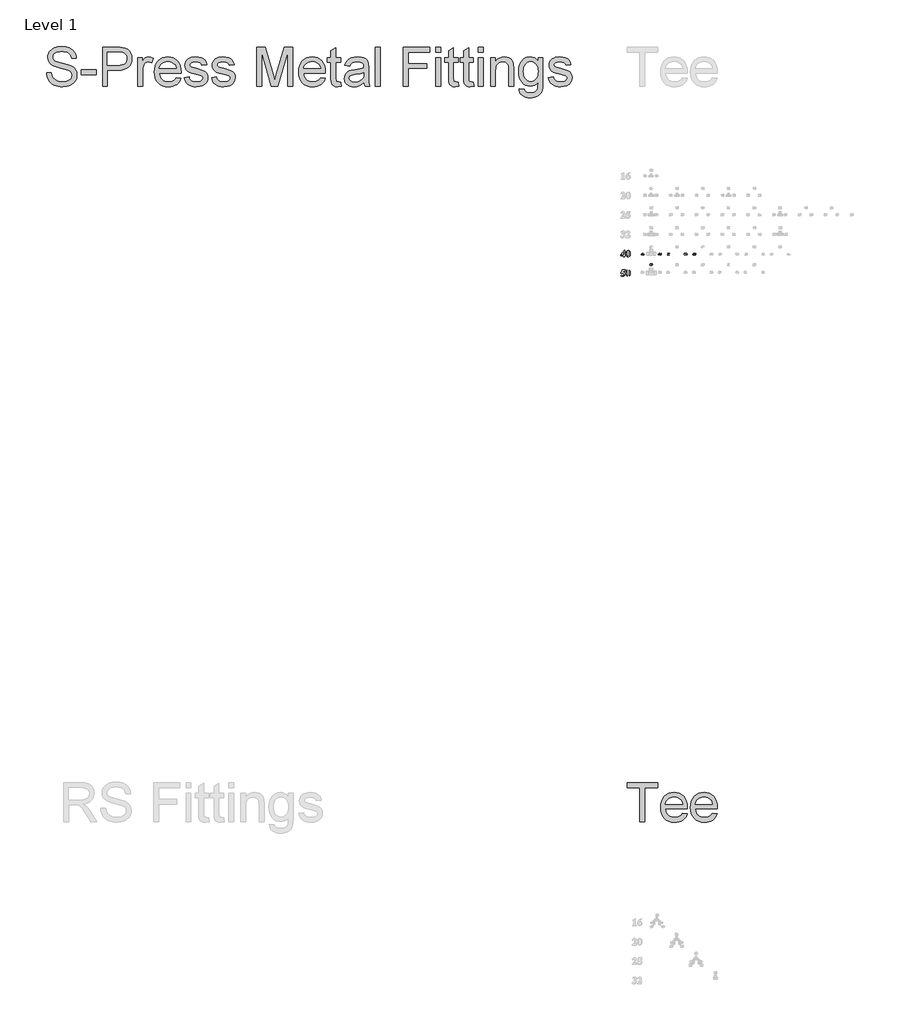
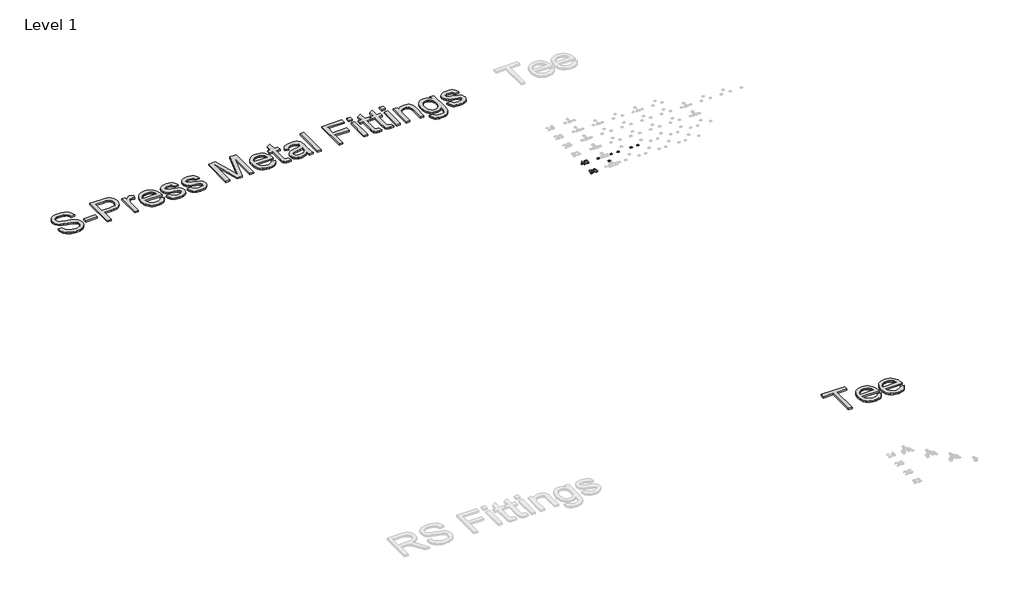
# One storey, part 26 of 57: 10 proxies.
"""IFC4 building model written with IfcOpenShell, lengths in millimetres."""

from ifc_helpers import new_model, si_unit, frame, origin, place, context, project, spatial, polyline, outline, extrude, element, save

model = new_model("IFC4")

# Units and contexts
model_context = context("Model", 3, world=origin())
ifc_project = project(units=[si_unit("LENGTHUNIT", "METRE", prefix="MILLI")], contexts=[model_context])

# Site, building, storey
site = spatial("IfcSite", under=ifc_project)
building = spatial("IfcBuilding", under=site)
storey = spatial("IfcBuildingStorey", under=building, Name="Level 1", Elevation=27.3876384)

# Proxies
placement = place(None, origin())
element("IfcBuildingElementProxy", 1, Name="100mm Arial", ObjectType="100mm Arial", at=placement, inside=storey, context=model_context, shape_type="SweptSolid", body=[
    extrude(outline(polyline([(12703.4377368, 28984.3646753), (12752.7046401, 29050.6718744), (12762.7652307, 29050.6718744), (12762.7652307, 28984.3646753), (12771.4898622, 28984.3646753), (12771.4898622, 28968.6603387), (12762.7652307, 28968.6603387), (12762.7652307, 28945.9762969), (12740.0811889, 28945.9762969), (12740.0811889, 28968.6603387), (12703.4377368, 28968.6603387), (12703.4377368, 28984.3646753)]), holes=[polyline([(12708.7270446, 28984.3646753), (12740.0811889, 28984.3646753), (12740.0811889, 29026.5428155), (12708.7270446, 28984.3646753)])]), frame((0.0, 0.0, 27.3876384), z_axis=(0.0, 0.0, 1.0), x_axis=(1.0, 0.0, 0.0)), (0.0, 0.0, 1.0), 2.0),
    extrude(outline(polyline([(12850.0115453, 28997.4516225), (12845.5674362, 28968.8784545), (12838.4514086, 28955.546127), (12828.3090246, 28947.2849916), (12815.9582182, 28944.2313706), (12802.1760269, 28947.9938679), (12791.2838698, 28958.7905994), (12785.3129502, 28972.422836), (12781.9594199, 28996.2519857), (12786.7852317, 29026.8427248), (12791.7746303, 29037.0294136), (12798.8361289, 29044.5237357), (12815.9582182, 29050.6718744), (12833.0939396, 29044.6055291), (12844.8040309, 29028.2877418), (12850.0115453, 28997.4516225)]), holes=[polyline([(12827.3275035, 28997.4516225), (12826.9730654, 29028.8057668), (12822.8561299, 29043.0105574), (12815.9036892, 29045.4370956), (12810.0690919, 29043.6103758), (12805.7613051, 29034.285926), (12804.6434617, 28987.6364121), (12806.3611236, 28958.4634257), (12810.0554597, 28951.279237), (12816.4217142, 28949.4661495), (12822.8561299, 28951.8926876), (12826.9730654, 28964.9523703), (12827.3275035, 28997.4516225)])]), frame((0.0, 0.0, 27.3876384), z_axis=(0.0, 0.0, 1.0), x_axis=(1.0, 0.0, 0.0)), (0.0, 0.0, 1.0), 2.0),
])
element("IfcBuildingElementProxy", 2, Name="100mm Arial", ObjectType="100mm Arial", at=placement, inside=storey, context=model_context, shape_type="SweptSolid", body=[
    extrude(outline(polyline([(12722.631926, 28748.9244196), (12771.4898622, 28748.9244196), (12764.510157, 28727.9853041), (12720.2326524, 28727.9853041), (12717.042709, 28719.2606727), (12741.3353547, 28715.4845431), (12759.3026426, 28706.1191965), (12768.4430573, 28694.8657852), (12771.4898622, 28681.1722034), (12765.7915873, 28662.4687748), (12750.0736184, 28648.7820091), (12728.0848207, 28644.2288421), (12708.2635486, 28649.0273894), (12703.4377368, 28656.7432354), (12705.9597006, 28662.6187294), (12711.8351946, 28665.1679576), (12717.9697011, 28663.8592629), (12728.6028457, 28656.9613511), (12736.7821877, 28652.1900683), (12742.2078178, 28651.2085473), (12753.0590782, 28655.7753466), (12757.5304518, 28666.7492971), (12754.1360249, 28678.786562), (12743.9527441, 28688.3427599), (12728.5960295, 28694.5795082), (12709.6813012, 28696.6584243), (12703.4377368, 28696.5766309), (12722.631926, 28748.9244196)])), frame((0.0, 0.0, 27.3876384), z_axis=(0.0, 0.0, 1.0), x_axis=(1.0, 0.0, 0.0)), (0.0, 0.0, 1.0), 2.0),
    extrude(outline(polyline([(12850.0115453, 28697.449094), (12845.5674362, 28668.875926), (12838.4514086, 28655.5435985), (12828.3090246, 28647.2824631), (12815.9582182, 28644.2288421), (12802.1760269, 28647.9913394), (12791.2838698, 28658.7880709), (12785.3129502, 28672.4203075), (12781.9594199, 28696.2494572), (12786.7852317, 28726.8401962), (12791.7746303, 28737.0268851), (12798.8361289, 28744.5212072), (12815.9582182, 28750.6693459), (12833.0939396, 28744.6030006), (12844.8040309, 28728.2852133), (12850.0115453, 28697.449094)]), holes=[polyline([(12827.3275035, 28697.449094), (12826.9730654, 28728.8032383), (12822.8561299, 28743.0080289), (12815.9036892, 28745.434567), (12810.0690919, 28743.6078473), (12805.7613051, 28734.2833975), (12804.6434617, 28687.6338836), (12806.3611236, 28658.4608972), (12810.0554597, 28651.2767085), (12816.4217142, 28649.463621), (12822.8561299, 28651.8901591), (12826.9730654, 28664.9498418), (12827.3275035, 28697.449094)])]), frame((0.0, 0.0, 27.3876384), z_axis=(0.0, 0.0, 1.0), x_axis=(1.0, 0.0, 0.0)), (0.0, 0.0, 1.0), 2.0),
])
element("IfcBuildingElementProxy", 3, Name="30mm Arial", ObjectType="30mm Arial", at=placement, inside=storey, context=model_context, shape_type="SweptSolid", body=[
    extrude(outline(polyline([(13295.5261179, 28976.9762969), (13295.5261179, 28983.2921884), (13283.8660105, 28983.2921884), (13283.8660105, 28988.1277929), (13296.3004219, 29007.0982411), (13301.3561716, 29007.0982411), (13301.3561716, 28988.1505665), (13305.2428741, 28988.1505665), (13305.2428741, 28983.2921884), (13301.3561716, 28983.2921884), (13301.3561716, 28976.9762969), (13295.5261179, 28976.9762969)]), holes=[polyline([(13295.5261179, 28988.1505665), (13295.5261179, 28998.0950592), (13289.0128548, 28988.1505665), (13295.5261179, 28988.1505665)])]), frame((0.0, 0.0, 27.3876384), z_axis=(0.0, 0.0, 1.0), x_axis=(1.0, 0.0, 0.0)), (0.0, 0.0, 1.0), 2.0),
    extrude(outline(polyline([(13317.8746571, 29007.5840789), (13324.6687952, 29004.4261331), (13327.5914133, 28992.0296778), (13324.6536128, 28979.6028576), (13317.8746571, 28976.4904591), (13310.8338045, 28979.9065062), (13308.1579009, 28992.0904075), (13311.0957014, 29004.4716804), (13317.8746571, 29007.5840789)]), holes=[polyline([(13317.8746571, 29002.239863), (13315.9313059, 29001.5984053), (13314.6104343, 28999.2944713), (13313.9879547, 28992.0296778), (13314.5421134, 28985.0115988), (13315.9426927, 28982.4685415), (13317.8746571, 28981.834675), (13319.8180084, 28982.4761327), (13321.1388799, 28984.7800667), (13321.7613596, 28992.0296778), (13321.2072009, 28999.0439612), (13319.8066215, 29001.5984053), (13317.8746571, 29002.239863)])]), frame((0.0, 0.0, 27.3876384), z_axis=(0.0, 0.0, 1.0), x_axis=(1.0, 0.0, 0.0)), (0.0, 0.0, 1.0), 2.0),
])
element("IfcBuildingElementProxy", 4, Name="30mm Arial", ObjectType="30mm Arial", at=placement, inside=storey, context=model_context, shape_type="SweptSolid", body=[
    extrude(outline(polyline([(13031.8131244, 28974.6512629), (13031.8131244, 28980.9671544), (13020.153017, 28980.9671544), (13020.153017, 28985.8027588), (13032.5874285, 29004.7732071), (13037.6431782, 29004.7732071), (13037.6431782, 28985.8255325), (13041.5298806, 28985.8255325), (13041.5298806, 28980.9671544), (13037.6431782, 28980.9671544), (13037.6431782, 28974.6512629), (13031.8131244, 28974.6512629)]), holes=[polyline([(13031.8131244, 28985.8255325), (13031.8131244, 28995.7700252), (13025.2998613, 28985.8255325), (13031.8131244, 28985.8255325)])]), frame((0.0, 0.0, 27.3876384), z_axis=(0.0, 0.0, 1.0), x_axis=(1.0, 0.0, 0.0)), (0.0, 0.0, 1.0), 2.0),
    extrude(outline(polyline([(13054.1616637, 29005.2590449), (13060.9558018, 29002.1010991), (13063.8784199, 28989.7046438), (13060.9406194, 28977.2778235), (13054.1616637, 28974.1654251), (13047.1208111, 28977.5814722), (13044.4449075, 28989.7653735), (13047.382708, 29002.1466464), (13054.1616637, 29005.2590449)]), holes=[polyline([(13054.1616637, 28999.914829), (13052.2183124, 28999.2733712), (13050.8974409, 28996.9694372), (13050.2749612, 28989.7046438), (13050.82912, 28982.6865648), (13052.2296993, 28980.1435075), (13054.1616637, 28979.509641), (13056.1050149, 28980.1510987), (13057.4258865, 28982.4550327), (13058.0483662, 28989.7046438), (13057.4942074, 28996.7189271), (13056.0936281, 28999.2733712), (13054.1616637, 28999.914829)])]), frame((0.0, 0.0, 27.3876384), z_axis=(0.0, 0.0, 1.0), x_axis=(1.0, 0.0, 0.0)), (0.0, 0.0, 1.0), 2.0),
])
element("IfcBuildingElementProxy", 5, Name="30mm Arial", ObjectType="30mm Arial", at=placement, inside=storey, context=model_context, shape_type="SweptSolid", body=[
    extrude(outline(polyline([(13683.5876861, 28985.5315971), (13689.4177398, 28986.2072153), (13690.7310201, 28982.9581749), (13693.3196247, 28981.834675), (13696.075236, 28983.1213861), (13697.1911448, 28986.5867761), (13696.1701262, 28989.8585901), (13693.6764118, 28991.0655934), (13691.361091, 28990.6328941), (13691.8697025, 28995.4381337), (13694.7429777, 28996.3946269), (13695.7336313, 28999.0970997), (13694.9934878, 29001.3858512), (13693.0235673, 29002.239863), (13690.9473698, 29001.2492093), (13689.9035776, 28998.3531605), (13684.0735239, 28999.2261503), (13685.679066, 29003.8605876), (13688.6775963, 29006.5896296), (13692.9856112, 29007.5840789), (13699.5292392, 29004.8284676), (13701.563685, 28999.7271706), (13697.198736, 28993.2974108), (13701.4346344, 28990.7961052), (13703.0211985, 28986.1009383), (13700.208653, 28979.3030045), (13693.2057565, 28976.4904591), (13686.6203768, 28978.9917647), (13683.5876861, 28985.5315971)])), frame((0.0, 0.0, 27.3876384), z_axis=(0.0, 0.0, 1.0), x_axis=(1.0, 0.0, 0.0)), (0.0, 0.0, 1.0), 2.0),
    extrude(outline(polyline([(13726.3414133, 28982.8063506), (13726.3414133, 28976.9762969), (13706.9079009, 28976.9762969), (13708.7677488, 28982.696278), (13714.8786775, 28989.8661813), (13719.3878597, 28994.7549242), (13720.5113596, 28998.2620659), (13719.5662532, 29001.2112533), (13716.9586706, 29002.239863), (13714.3472924, 29001.2264357), (13713.2237925, 28997.8673227), (13707.3937388, 28998.3987078), (13710.5213196, 29005.4471517), (13717.0877213, 29007.5840789), (13723.8742682, 29005.1890503), (13726.3414133, 28999.2337416), (13725.6657951, 28995.3774039), (13723.5250723, 28991.54384), (13719.9002667, 28987.7178672), (13716.5715186, 28984.4005059), (13715.4783835, 28982.8063506), (13726.3414133, 28982.8063506)])), frame((0.0, 0.0, 27.3876384), z_axis=(0.0, 0.0, 1.0), x_axis=(1.0, 0.0, 0.0)), (0.0, 0.0, 1.0), 2.0),
])
element("IfcBuildingElementProxy", 6, Name="30mm Arial", ObjectType="30mm Arial", at=placement, inside=storey, context=model_context, shape_type="SweptSolid", body=[
    extrude(outline(polyline([(13430.5631244, 28974.6512629), (13430.5631244, 28980.9671544), (13418.903017, 28980.9671544), (13418.903017, 28985.8027588), (13431.3374285, 29004.7732071), (13436.3931782, 29004.7732071), (13436.3931782, 28985.8255325), (13440.2798806, 28985.8255325), (13440.2798806, 28980.9671544), (13436.3931782, 28980.9671544), (13436.3931782, 28974.6512629), (13430.5631244, 28974.6512629)]), holes=[polyline([(13430.5631244, 28985.8255325), (13430.5631244, 28995.7700252), (13424.0498613, 28985.8255325), (13430.5631244, 28985.8255325)])]), frame((0.0, 0.0, 27.3876384), z_axis=(0.0, 0.0, 1.0), x_axis=(1.0, 0.0, 0.0)), (0.0, 0.0, 1.0), 2.0),
    extrude(outline(polyline([(13452.9116637, 29005.2590449), (13459.7058018, 29002.1010991), (13462.6284199, 28989.7046438), (13459.6906194, 28977.2778235), (13452.9116637, 28974.1654251), (13445.8708111, 28977.5814722), (13443.1949075, 28989.7653735), (13446.132708, 29002.1466464), (13452.9116637, 29005.2590449)]), holes=[polyline([(13452.9116637, 28999.914829), (13450.9683124, 28999.2733712), (13449.6474409, 28996.9694372), (13449.0249612, 28989.7046438), (13449.57912, 28982.6865648), (13450.9796993, 28980.1435075), (13452.9116637, 28979.509641), (13454.8550149, 28980.1510987), (13456.1758865, 28982.4550327), (13456.7983662, 28989.7046438), (13456.2442074, 28996.7189271), (13454.8436281, 28999.2733712), (13452.9116637, 28999.914829)])]), frame((0.0, 0.0, 27.3876384), z_axis=(0.0, 0.0, 1.0), x_axis=(1.0, 0.0, 0.0)), (0.0, 0.0, 1.0), 2.0),
])
element("IfcBuildingElementProxy", 7, Name="30mm Arial", ObjectType="30mm Arial", at=placement, inside=storey, context=model_context, shape_type="SweptSolid", body=[
    extrude(outline(polyline([(13829.3131244, 28974.6512629), (13829.3131244, 28980.9671544), (13817.653017, 28980.9671544), (13817.653017, 28985.8027588), (13830.0874285, 29004.7732071), (13835.1431782, 29004.7732071), (13835.1431782, 28985.8255325), (13839.0298806, 28985.8255325), (13839.0298806, 28980.9671544), (13835.1431782, 28980.9671544), (13835.1431782, 28974.6512629), (13829.3131244, 28974.6512629)]), holes=[polyline([(13829.3131244, 28985.8255325), (13829.3131244, 28995.7700252), (13822.7998613, 28985.8255325), (13829.3131244, 28985.8255325)])]), frame((0.0, 0.0, 27.3876384), z_axis=(0.0, 0.0, 1.0), x_axis=(1.0, 0.0, 0.0)), (0.0, 0.0, 1.0), 2.0),
    extrude(outline(polyline([(13851.6616637, 29005.2590449), (13858.4558018, 29002.1010991), (13861.3784199, 28989.7046438), (13858.4406194, 28977.2778235), (13851.6616637, 28974.1654251), (13844.6208111, 28977.5814722), (13841.9449075, 28989.7653735), (13844.882708, 29002.1466464), (13851.6616637, 29005.2590449)]), holes=[polyline([(13851.6616637, 28999.914829), (13849.7183124, 28999.2733712), (13848.3974409, 28996.9694372), (13847.7749612, 28989.7046438), (13848.32912, 28982.6865648), (13849.7296993, 28980.1435075), (13851.6616637, 28979.509641), (13853.6050149, 28980.1510987), (13854.9258865, 28982.4550327), (13855.5483662, 28989.7046438), (13854.9942074, 28996.7189271), (13853.5936281, 28999.2733712), (13851.6616637, 28999.914829)])]), frame((0.0, 0.0, 27.3876384), z_axis=(0.0, 0.0, 1.0), x_axis=(1.0, 0.0, 0.0)), (0.0, 0.0, 1.0), 2.0),
])
element("IfcBuildingElementProxy", 8, Name="30mm Arial", ObjectType="30mm Arial", at=placement, inside=storey, context=model_context, shape_type="SweptSolid", body=[
    extrude(outline(polyline([(13150.9328401, 28820.4234883), (13156.277056, 28821.0383767), (13157.7649343, 28817.8424749), (13160.6192314, 28816.6658365), (13163.7430167, 28817.9145915), (13165.0221366, 28821.6760389), (13163.8341113, 28825.2059542), (13160.7406909, 28826.3825927), (13156.4744276, 28823.9534036), (13151.4186779, 28824.704934), (13154.8195426, 28841.9294026), (13169.3946769, 28841.9294026), (13169.3946769, 28836.0993488), (13159.5336876, 28836.0993488), (13158.3570491, 28830.5349877), (13162.1147009, 28831.7268086), (13168.309133, 28828.9674016), (13170.8521903, 28821.8050895), (13168.7342411, 28815.2538703), (13160.710326, 28811.3216206), (13154.0262605, 28813.7887657), (13150.9328401, 28820.4234883)])), frame((0.0, 0.0, 27.3876384), z_axis=(0.0, 0.0, 1.0), x_axis=(1.0, 0.0, 0.0)), (0.0, 0.0, 1.0), 2.0),
    extrude(outline(polyline([(13183.9698112, 28842.4152404), (13190.7639493, 28839.2572946), (13193.6865673, 28826.8608392), (13190.7487668, 28814.434019), (13183.9698112, 28811.3216206), (13176.9289585, 28814.7376677), (13174.253055, 28826.921569), (13177.1908555, 28839.3028419), (13183.9698112, 28842.4152404)]), holes=[polyline([(13183.9698112, 28837.0710245), (13182.0264599, 28836.4295667), (13180.7055884, 28834.1256327), (13180.0831087, 28826.8608392), (13180.6372674, 28819.8427603), (13182.0378467, 28817.299703), (13183.9698112, 28816.6658365), (13185.9131624, 28817.3072942), (13187.2340339, 28819.6112282), (13187.8565136, 28826.8608392), (13187.3023549, 28833.8751226), (13185.9017756, 28836.4295667), (13183.9698112, 28837.0710245)])]), frame((0.0, 0.0, 27.3876384), z_axis=(0.0, 0.0, 1.0), x_axis=(1.0, 0.0, 0.0)), (0.0, 0.0, 1.0), 2.0),
])
element("IfcBuildingElementProxy", 9, Name="600mm Arial", ObjectType="600mm Arial", at=placement, inside=storey, context=model_context, shape_type="SweptSolid", body=[
    extrude(outline(polyline([(12997.427256, 20213.7679008), (12997.427256, 20741.1635291), (12799.6538954, 20741.1635291), (12799.6538954, 20816.5057617), (13270.5428492, 20816.5057617), (13270.5428492, 20741.1635291), (13072.7694886, 20741.1635291), (13072.7694886, 20213.7679008), (12997.427256, 20213.7679008)])), frame((0.0, 0.0, 27.3876384), z_axis=(0.0, 0.0, 1.0), x_axis=(1.0, 0.0, 0.0)), (0.0, 0.0, 1.0), 30.0),
    extrude(outline(polyline([(13655.7888746, 20345.6168079), (13729.6595792, 20336.1990288), (13718.3334123, 20306.6121193), (13703.0433169, 20280.5384829), (13683.7892929, 20257.9781196), (13660.5713405, 20238.9310293), (13633.6285829, 20223.8018822), (13603.2001434, 20212.9953486), (13569.2860219, 20206.5114285), (13531.8862186, 20204.3501217), (13485.1376141, 20208.0795255), (13443.4841752, 20219.2677366), (13406.9259019, 20237.9147553), (13375.4627943, 20264.0205813), (13350.16171, 20296.8586479), (13332.089507, 20335.7023881), (13321.2461852, 20380.5518018), (13317.6317446, 20431.4068892), (13321.2829734, 20483.9864233), (13332.2366598, 20530.3303577), (13350.4928038, 20570.4386922), (13376.0514054, 20604.3114269), (13407.4317396, 20631.2219948), (13443.1530814, 20650.4438291), (13483.2154306, 20661.9769296), (13527.6187875, 20665.8212965), (13570.592003, 20661.9861267), (13609.4541373, 20650.4806173), (13644.2051903, 20631.3047683), (13674.8451619, 20604.4585797), (13699.8565391, 20570.6594214), (13717.7218085, 20530.6246633), (13728.4409701, 20484.3543053), (13732.014024, 20431.8483475), (13731.5725656, 20411.5412614), (13392.9739772, 20411.5412614), (13397.3379774, 20381.4761054), (13406.015394, 20355.1449516), (13419.0062269, 20332.5478), (13436.3104763, 20313.6846507), (13456.9716488, 20298.813021), (13480.0332514, 20288.1904284), (13505.495284, 20281.8168729), (13533.3577466, 20279.6923543), (13573.4568841, 20283.6286917), (13607.2284512, 20295.4377037), (13634.6724481, 20315.8551545), (13655.7888746, 20345.6168079)]), holes=[polyline([(13392.9739772, 20486.883494), (13656.6717914, 20486.883494), (13646.4814601, 20526.6883259), (13637.7166716, 20542.3417048), (13626.5054678, 20555.1623923), (13605.9592583, 20570.6134361), (13582.5803575, 20581.649896), (13556.3687654, 20588.2717719), (13527.3244819, 20590.4790639), (13500.8323797, 20588.7178288), (13476.5383724, 20583.4341237), (13454.4424601, 20574.6279484), (13434.5446427, 20562.299303), (13417.8473986, 20547.0184047), (13405.3532064, 20529.3554704), (13397.0620659, 20509.3105002), (13392.9739772, 20486.883494)])]), frame((0.0, 0.0, 27.3876384), z_axis=(0.0, 0.0, 1.0), x_axis=(1.0, 0.0, 0.0)), (0.0, 0.0, 1.0), 30.0),
    extrude(outline(polyline([(14117.2600493, 20345.6168079), (14191.130754, 20336.1990288), (14179.804587, 20306.6121193), (14164.5144916, 20280.5384829), (14145.2604677, 20257.9781196), (14122.0425153, 20238.9310293), (14095.0997576, 20223.8018822), (14064.6713181, 20212.9953486), (14030.7571967, 20206.5114285), (13993.3573934, 20204.3501217), (13946.6087888, 20208.0795255), (13904.9553499, 20219.2677366), (13868.3970766, 20237.9147553), (13836.933969, 20264.0205813), (13811.6328848, 20296.8586479), (13793.5606818, 20335.7023881), (13782.71736, 20380.5518018), (13779.1029194, 20431.4068892), (13782.7541482, 20483.9864233), (13793.7078346, 20530.3303577), (13811.9639786, 20570.4386922), (13837.5225802, 20604.3114269), (13868.9029144, 20631.2219948), (13904.6242561, 20650.4438291), (13944.6866054, 20661.9769296), (13989.0899622, 20665.8212965), (14032.0631778, 20661.9861267), (14070.925312, 20650.4806173), (14105.676365, 20631.3047683), (14136.3163367, 20604.4585797), (14161.3277138, 20570.6594214), (14179.1929832, 20530.6246633), (14189.9121449, 20484.3543053), (14193.4851987, 20431.8483475), (14193.0437403, 20411.5412614), (13854.445152, 20411.5412614), (13858.8091521, 20381.4761054), (13867.4865687, 20355.1449516), (13880.4774017, 20332.5478), (13897.781651, 20313.6846507), (13918.4428236, 20298.813021), (13941.5044261, 20288.1904284), (13966.9664587, 20281.8168729), (13994.8289213, 20279.6923543), (14034.9280588, 20283.6286917), (14068.699626, 20295.4377037), (14096.1436228, 20315.8551545), (14117.2600493, 20345.6168079)]), holes=[polyline([(13854.445152, 20486.883494), (14118.1429661, 20486.883494), (14107.9526349, 20526.6883259), (14099.1878463, 20542.3417048), (14087.9766425, 20555.1623923), (14067.4304331, 20570.6134361), (14044.0515323, 20581.649896), (14017.8399401, 20588.2717719), (13988.7956566, 20590.4790639), (13962.3035544, 20588.7178288), (13938.0095472, 20583.4341237), (13915.9136348, 20574.6279484), (13896.0158174, 20562.299303), (13879.3185734, 20547.0184047), (13866.8243811, 20529.3554704), (13858.5332406, 20509.3105002), (13854.445152, 20486.883494)])]), frame((0.0, 0.0, 27.3876384), z_axis=(0.0, 0.0, 1.0), x_axis=(1.0, 0.0, 0.0)), (0.0, 0.0, 1.0), 30.0),
])
element("IfcBuildingElementProxy", 10, Name="600mm Arial", ObjectType="600mm Arial", at=placement, inside=storey, context=model_context, shape_type="SweptSolid", body=[
    extrude(outline(polyline([(3822.5326656, 31795.0596989), (3897.8748982, 31795.0596989), (3906.5201251, 31753.2499101), (3922.1551099, 31719.6438899), (3946.5456861, 31692.9724452), (3981.4576875, 31671.9663833), (4024.1319989, 31658.3363554), (4071.8095055, 31653.7930127), (4113.7848412, 31657.2327094), (4150.5362525, 31667.5517993), (4180.3163, 31683.8857599), (4201.3775442, 31705.3700685), (4213.9039261, 31730.0365562), (4218.0793868, 31755.9170546), (4214.9523898, 31781.1353654), (4205.571399, 31802.9323736), (4186.5151116, 31821.5288084), (4154.3622252, 31837.1453991), (4044.6598143, 31865.9137711), (3972.6469137, 31884.9516644), (3926.5696938, 31903.0698527), (3889.0641244, 31928.4169221), (3862.4846503, 31959.1350687), (3846.6473304, 31994.5621049), (3841.3682237, 32034.0358429), (3843.0007001, 32056.4720461), (3847.8981291, 32078.1632883), (3856.0605109, 32099.1095694), (3867.4878454, 32119.3108894), (3882.0513739, 32137.9441125), (3899.6223377, 32154.1861026), (3920.2007368, 32168.0368597), (3943.7865712, 32179.4963838), (3996.7983667, 32194.8922453), (4055.4755449, 32200.0241992), (4119.0455537, 32194.653122), (4174.6693114, 32178.5398906), (4199.0047053, 32166.5377406), (4220.3602552, 32152.0155988), (4238.7359608, 32134.9734654), (4254.1318223, 32115.4113403), (4266.428278, 32093.8994406), (4275.5057662, 32071.0079835), (4281.364287, 32046.7369688), (4284.0038403, 32021.0863967), (4208.6616077, 32021.0863967), (4203.6216244, 32045.1274851), (4194.8292447, 32066.0415765), (4182.2844687, 32083.828671), (4165.9872963, 32098.4887685), (4145.6342249, 32109.9482926), (4120.9217519, 32118.133667), (4091.8498772, 32123.0448917), (4058.4186009, 32124.6819666), (4023.9204668, 32123.0632858), (3994.4439219, 32118.2072434), (3969.9889663, 32110.1138395), (3950.5555999, 32098.7830741), (3935.7483496, 32085.1622432), (3925.1717422, 32070.1986431), (3918.8257778, 32053.8922736), (3916.7104563, 32036.2431349), (3918.2095755, 32021.0588056), (3922.7069329, 32007.2908219), (3930.2025285, 31994.9391839), (3940.6963624, 31984.0038916), (3957.214264, 31973.6480134), (3983.2235211, 31963.1817707), (4063.7161016, 31941.9181914), (4146.7838561, 31921.7214698), (4197.0365367, 31904.0999222), (4239.9867596, 31876.76629), (4256.5920332, 31860.6990439), (4269.9507481, 31843.031511), (4280.2192543, 31823.855662), (4287.5539016, 31803.2634674), (4293.4216194, 31757.830041), (4291.7339607, 31734.2626006), (4286.6709848, 31711.3849391), (4278.2326915, 31689.1970562), (4266.419081, 31667.6989521), (4251.4370867, 31647.7229598), (4233.4936424, 31630.1014122), (4212.588748, 31614.8343094), (4188.7224036, 31601.9216514), (4162.5889863, 31591.6531452), (4134.8828736, 31584.3184979), (4074.7525615, 31578.4507801), (4036.2123239, 31580.0326727), (4000.9370391, 31584.7783504), (3968.926707, 31592.6878133), (3940.1813276, 31603.7610614), (3914.526157, 31618.0164887), (3891.7864512, 31635.4724894), (3871.9622102, 31656.1290634), (3855.0534339, 31679.9862108), (3841.4326031, 31706.2713793), (3831.4721981, 31734.2120169), (3825.1722189, 31763.8081234), (3822.5326656, 31795.0596989)])), frame((0.0, 0.0, 27.3876384), z_axis=(0.0, 0.0, 1.0), x_axis=(1.0, 0.0, 0.0)), (0.0, 0.0, 1.0), 30.0),
    extrude(outline(polyline([(4359.3460729, 31766.8063616), (4359.3460729, 31842.1485943), (4594.7905499, 31842.1485943), (4594.7905499, 31766.8063616), (4359.3460729, 31766.8063616)])), frame((0.0, 0.0, 27.3876384), z_axis=(0.0, 0.0, 1.0), x_axis=(1.0, 0.0, 0.0)), (0.0, 0.0, 1.0), 30.0),
    extrude(outline(polyline([(4688.9683406, 31587.8685592), (4688.9683406, 32190.6064201), (4912.3462881, 32190.6064201), (4964.3648022, 32189.1716803), (5002.4038005, 32184.867461), (5042.5581203, 32174.1437008), (5075.6123175, 32156.6877001), (5102.2285799, 32131.7085127), (5123.0690949, 32098.4151921), (5136.5335759, 32059.1437891), (5141.0217363, 32016.2303544), (5137.9913084, 31979.2306227), (5128.9000245, 31945.1923411), (5113.7478849, 31914.1155096), (5092.5348893, 31886.0001281), (5063.4124309, 31862.6948037), (5024.5319025, 31846.0481434), (4975.8933042, 31836.0601472), (4917.496636, 31832.7308152), (4764.3105732, 31832.7308152), (4764.3105732, 31587.8685592), (4688.9683406, 31587.8685592)]), holes=[polyline([(4764.3105732, 31908.0730478), (4921.91122, 31908.0730478), (4958.1475965, 31909.8020932), (4988.7185903, 31914.9892293), (5013.6242014, 31923.6344562), (5032.8644297, 31935.7377738), (5047.2210246, 31950.9772855), (5057.4757352, 31969.0310944), (5063.6285616, 31989.8992006), (5065.6795037, 32013.581604), (5060.8418554, 32047.4267476), (5046.3289107, 32075.9743904), (5023.9432913, 32097.4586989), (4995.487619, 32110.1138395), (4966.4249414, 32113.9766005), (4920.1453864, 32115.2641875), (4764.3105732, 32115.2641875), (4764.3105732, 31908.0730478)])]), frame((0.0, 0.0, 27.3876384), z_axis=(0.0, 0.0, 1.0), x_axis=(1.0, 0.0, 0.0)), (0.0, 0.0, 1.0), 30.0),
    extrude(outline(polyline([(5235.1995271, 31587.8685592), (5235.1995271, 32030.5041758), (5301.1239806, 32030.5041758), (5301.1239806, 31965.0211806), (5325.4777687, 32002.9866025), (5347.9185704, 32025.3538279), (5370.4329485, 32036.2799231), (5395.0074658, 32039.9219549), (5432.5314293, 32034.1094193), (5470.644004, 32016.6718128), (5445.4808755, 31949.1286785), (5418.9933718, 31960.7169613), (5392.5058682, 31964.5797223), (5370.0098842, 31960.8641141), (5349.9051331, 31949.7172896), (5333.6631431, 31931.9853775), (5322.7554419, 31908.5145062), (5313.5951802, 31866.4288059), (5310.5417597, 31820.5171329), (5310.5417597, 31587.8685592), (5235.1995271, 31587.8685592)])), frame((0.0, 0.0, 27.3876384), z_axis=(0.0, 0.0, 1.0), x_axis=(1.0, 0.0, 0.0)), (0.0, 0.0, 1.0), 30.0),
    extrude(outline(polyline([(5827.6366921, 31719.7174663), (5901.5073967, 31710.2996872), (5890.1812298, 31680.7127777), (5874.8911344, 31654.6391413), (5855.6371104, 31632.078778), (5832.419158, 31613.0316877), (5805.4764004, 31597.9025406), (5775.0479609, 31587.096007), (5741.1338394, 31580.6120868), (5703.7340361, 31578.4507801), (5656.9854316, 31582.1801838), (5615.3319927, 31593.368395), (5578.7737194, 31612.0154137), (5547.3106118, 31638.1212397), (5522.0095275, 31670.9593063), (5503.9373245, 31709.8030465), (5493.0940027, 31754.6524602), (5489.4795621, 31805.5075475), (5493.1307909, 31858.0870817), (5504.0844773, 31904.431016), (5522.3406213, 31944.5393506), (5547.899223, 31978.4120853), (5579.2795571, 32005.3226532), (5615.0008989, 32024.5444875), (5655.0632481, 32036.077588), (5699.466605, 32039.9219549), (5742.4398205, 32036.0867851), (5781.3019548, 32024.5812757), (5816.0530078, 32005.4054267), (5846.6929794, 31978.5592381), (5871.7043566, 31944.7600798), (5889.569626, 31904.7253216), (5900.2887876, 31858.4549637), (5903.8618415, 31805.9490059), (5903.4203831, 31785.6419198), (5564.8217947, 31785.6419198), (5569.1857949, 31755.5767637), (5577.8632115, 31729.2456099), (5590.8540444, 31706.6484584), (5608.1582938, 31687.7853091), (5628.8194663, 31672.9136794), (5651.8810689, 31662.2910868), (5677.3431015, 31655.9175313), (5705.2055641, 31653.7930127), (5745.3047016, 31657.7293501), (5779.0762687, 31669.5383621), (5806.5202656, 31689.9558129), (5827.6366921, 31719.7174663)]), holes=[polyline([(5564.8217947, 31860.9841524), (5828.5196089, 31860.9841524), (5818.3292776, 31900.7889843), (5809.5644891, 31916.4423632), (5798.3532853, 31929.2630507), (5777.8070758, 31944.7140945), (5754.428175, 31955.7505544), (5728.2165829, 31962.3724303), (5699.1722994, 31964.5797223), (5672.6801972, 31962.8184872), (5648.3861899, 31957.534782), (5626.2902776, 31948.7286068), (5606.3924602, 31936.3999614), (5589.6952161, 31921.119063), (5577.2010239, 31903.4561288), (5568.9098834, 31883.4111585), (5564.8217947, 31860.9841524)])]), frame((0.0, 0.0, 27.3876384), z_axis=(0.0, 0.0, 1.0), x_axis=(1.0, 0.0, 0.0)), (0.0, 0.0, 1.0), 30.0),
    extrude(outline(polyline([(5950.9507369, 31719.7174663), (6026.2929695, 31729.1352453), (6030.8455092, 31711.9551562), (6038.1755579, 31696.9087826), (6048.2831157, 31683.9961245), (6061.1681826, 31673.2171821), (6076.8675468, 31664.719108), (6095.4179964, 31658.6490551), (6141.072152, 31653.7930127), (6186.1744846, 31658.2443849), (6203.7040617, 31663.8086), (6217.8859126, 31671.5985013), (6236.6478943, 31690.9490942), (6241.3383898, 31701.783219), (6242.9018882, 31713.3898959), (6241.3291927, 31723.5618331), (6236.6111061, 31732.5933361), (6217.7387598, 31747.2350395), (6189.5222107, 31756.7999714), (6140.1892352, 31768.719348), (6071.4320903, 31788.6033699), (6026.7344279, 31805.5811239), (5998.0212382, 31824.1039824), (5977.2175113, 31848.6233174), (5964.5807648, 31877.5756304), (5960.3685159, 31909.397423), (5963.7530303, 31938.5888593), (5973.9065734, 31965.5362154), (5989.9094402, 31989.1726336), (6010.8419257, 32008.4312561), (6031.6456525, 32020.5529678), (6058.7401615, 32030.724905), (6090.0653133, 32037.6226924), (6123.560969, 32039.9219549), (6172.599639, 32036.2247408), (6215.2371622, 32025.1330987), (6249.5237642, 32007.7322803), (6273.5096702, 31985.1075376), (6289.4021724, 31955.5850075), (6299.4085627, 31917.4908269), (6224.0663301, 31908.0730478), (6214.5565805, 31931.7830424), (6195.7394165, 31949.6437132), (6167.4308969, 31960.84572), (6129.4470809, 31964.5797223), (6086.1841583, 31961.0112669), (6057.3422099, 31950.3059008), (6041.1186139, 31934.854857), (6035.7107486, 31917.0493685), (6037.9548287, 31905.4610856), (6044.6870692, 31895.1236016), (6056.2017757, 31885.8897635), (6072.7932537, 31878.4953354), (6137.6876376, 31862.4556804), (6248.2729654, 31826.9918561), (6277.4827958, 31810.0324961), (6299.6292919, 31786.8191422), (6313.5904136, 31757.278218), (6318.2441209, 31721.336147), (6312.7810732, 31684.1800655), (6296.3919303, 31649.231276), (6269.7020916, 31619.2304993), (6233.3369564, 31596.9184563), (6189.4118461, 31583.0676992), (6140.0420824, 31578.4507801), (6099.4922895, 31580.6764662), (6064.0744504, 31587.3535244), (6033.7885651, 31598.4819548), (6008.6346337, 31614.0617572), (5988.0884243, 31634.0193555), (5971.625705, 31658.2811731), (5959.2464759, 31686.84721), (5950.9507369, 31719.7174663)])), frame((0.0, 0.0, 27.3876384), z_axis=(0.0, 0.0, 1.0), x_axis=(1.0, 0.0, 0.0)), (0.0, 0.0, 1.0), 30.0),
    extrude(outline(polyline([(6374.7507953, 31719.7174663), (6450.0930279, 31729.1352453), (6454.6455676, 31711.9551562), (6461.9756164, 31696.9087826), (6472.0831742, 31683.9961245), (6484.9682411, 31673.2171821), (6500.6676052, 31664.719108), (6519.2180548, 31658.6490551), (6564.8722104, 31653.7930127), (6609.974543, 31658.2443849), (6627.5041201, 31663.8086), (6641.685971, 31671.5985013), (6660.4479528, 31690.9490942), (6665.1384482, 31701.783219), (6666.7019467, 31713.3898959), (6665.1292512, 31723.5618331), (6660.4111646, 31732.5933361), (6641.5388182, 31747.2350395), (6613.3222692, 31756.7999714), (6563.9892936, 31768.719348), (6495.2321487, 31788.6033699), (6450.5344863, 31805.5811239), (6421.8212966, 31824.1039824), (6401.0175698, 31848.6233174), (6388.3808232, 31877.5756304), (6384.1685744, 31909.397423), (6387.5530887, 31938.5888593), (6397.7066318, 31965.5362154), (6413.7094986, 31989.1726336), (6434.6419841, 32008.4312561), (6455.445711, 32020.5529678), (6482.5402199, 32030.724905), (6513.8653718, 32037.6226924), (6547.3610275, 32039.9219549), (6596.3996974, 32036.2247408), (6639.0372206, 32025.1330987), (6673.3238226, 32007.7322803), (6697.3097287, 31985.1075376), (6713.2022309, 31955.5850075), (6723.2086211, 31917.4908269), (6647.8663885, 31908.0730478), (6638.356639, 31931.7830424), (6619.5394749, 31949.6437132), (6591.2309554, 31960.84572), (6553.2471394, 31964.5797223), (6509.9842167, 31961.0112669), (6481.1422683, 31950.3059008), (6464.9186723, 31934.854857), (6459.510807, 31917.0493685), (6461.7548872, 31905.4610856), (6468.4871277, 31895.1236016), (6480.0018341, 31885.8897635), (6496.5933121, 31878.4953354), (6561.4876961, 31862.4556804), (6672.0730238, 31826.9918561), (6701.2828542, 31810.0324961), (6723.4293503, 31786.8191422), (6737.3904721, 31757.278218), (6742.0441793, 31721.336147), (6736.5811317, 31684.1800655), (6720.1919888, 31649.231276), (6693.50215, 31619.2304993), (6657.1370148, 31596.9184563), (6613.2119046, 31583.0676992), (6563.8421408, 31578.4507801), (6523.2923479, 31580.6764662), (6487.8745088, 31587.3535244), (6457.5886236, 31598.4819548), (6432.4346922, 31614.0617572), (6411.8884827, 31634.0193555), (6395.4257634, 31658.2811731), (6383.0465343, 31686.84721), (6374.7507953, 31719.7174663)])), frame((0.0, 0.0, 27.3876384), z_axis=(0.0, 0.0, 1.0), x_axis=(1.0, 0.0, 0.0)), (0.0, 0.0, 1.0), 30.0),
    extrude(outline(polyline([(7071.666447, 31587.8685592), (7071.666447, 32190.6064201), (7201.3080621, 32190.6064201), (7324.6221069, 31765.7762921), (7349.4909297, 31677.0431548), (7376.4198918, 31773.133932), (7497.6737974, 32190.6064201), (7627.3154125, 32190.6064201), (7627.3154125, 31587.8685592), (7551.9731799, 31587.8685592), (7551.9731799, 32115.2641875), (7400.5529507, 31587.8685592), (7298.4289088, 31587.8685592), (7147.0086796, 32115.2641875), (7147.0086796, 31587.8685592), (7071.666447, 31587.8685592)])), frame((0.0, 0.0, 27.3876384), z_axis=(0.0, 0.0, 1.0), x_axis=(1.0, 0.0, 0.0)), (0.0, 0.0, 1.0), 30.0),
    extrude(outline(polyline([(8059.6503332, 31719.7174663), (8133.5210379, 31710.2996872), (8122.1948709, 31680.7127777), (8106.9047755, 31654.6391413), (8087.6507516, 31632.078778), (8064.4327992, 31613.0316877), (8037.4900415, 31597.9025406), (8007.061602, 31587.096007), (7973.1474806, 31580.6120868), (7935.7476772, 31578.4507801), (7888.9990727, 31582.1801838), (7847.3456338, 31593.368395), (7810.7873605, 31612.0154137), (7779.3242529, 31638.1212397), (7754.0231687, 31670.9593063), (7735.9509657, 31709.8030465), (7725.1076439, 31754.6524602), (7721.4932033, 31805.5075475), (7725.1444321, 31858.0870817), (7736.0981185, 31904.431016), (7754.3542625, 31944.5393506), (7779.9128641, 31978.4120853), (7811.2931983, 32005.3226532), (7847.01454, 32024.5444875), (7887.0768893, 32036.077588), (7931.4802461, 32039.9219549), (7974.4534617, 32036.0867851), (8013.3155959, 32024.5812757), (8048.0666489, 32005.4054267), (8078.7066206, 31978.5592381), (8103.7179977, 31944.7600798), (8121.5832671, 31904.7253216), (8132.3024287, 31858.4549637), (8135.8754826, 31805.9490059), (8135.4340242, 31785.6419198), (7796.8354359, 31785.6419198), (7801.199436, 31755.5767637), (7809.8768526, 31729.2456099), (7822.8676856, 31706.6484584), (7840.1719349, 31687.7853091), (7860.8331075, 31672.9136794), (7883.89471, 31662.2910868), (7909.3567426, 31655.9175313), (7937.2192052, 31653.7930127), (7977.3183427, 31657.7293501), (8011.0899099, 31669.5383621), (8038.5339067, 31689.9558129), (8059.6503332, 31719.7174663)]), holes=[polyline([(7796.8354359, 31860.9841524), (8060.53325, 31860.9841524), (8050.3429187, 31900.7889843), (8041.5781302, 31916.4423632), (8030.3669264, 31929.2630507), (8009.820717, 31944.7140945), (7986.4418162, 31955.7505544), (7960.230224, 31962.3724303), (7931.1859405, 31964.5797223), (7904.6938383, 31962.8184872), (7880.3998311, 31957.534782), (7858.3039187, 31948.7286068), (7838.4061013, 31936.3999614), (7821.7088573, 31921.119063), (7809.214665, 31903.4561288), (7800.9235245, 31883.4111585), (7796.8354359, 31860.9841524)])]), frame((0.0, 0.0, 27.3876384), z_axis=(0.0, 0.0, 1.0), x_axis=(1.0, 0.0, 0.0)), (0.0, 0.0, 1.0), 30.0),
    extrude(outline(polyline([(8371.3199595, 31650.702804), (8380.7377386, 31585.6612672), (8324.378217, 31578.4507801), (8288.2154168, 31581.5777771), (8261.2496666, 31590.958768), (8242.1933792, 31605.4165304), (8229.7589678, 31623.7738419), (8222.9163627, 31655.3013289), (8220.6354943, 31709.2696176), (8220.6354943, 31955.1619432), (8164.1288199, 31955.1619432), (8164.1288199, 32030.5041758), (8220.6354943, 32030.5041758), (8220.6354943, 32138.0728712), (8295.9777269, 32182.3658634), (8295.9777269, 32030.5041758), (8371.3199595, 32030.5041758), (8371.3199595, 31955.1619432), (8295.9777269, 31955.1619432), (8295.9777269, 31711.4769096), (8299.9508525, 31672.6285709), (8312.8267223, 31658.8697843), (8323.6976353, 31655.0622056), (8338.5048856, 31653.7930127), (8371.3199595, 31650.702804)])), frame((0.0, 0.0, 27.3876384), z_axis=(0.0, 0.0, 1.0), x_axis=(1.0, 0.0, 0.0)), (0.0, 0.0, 1.0), 30.0),
    extrude(outline(polyline([(8729.1955644, 31644.3752337), (8693.1983112, 31613.5099343), (8656.1342002, 31593.3132127), (8617.1571028, 31582.1663883), (8575.4208905, 31578.4507801), (8541.874651, 31580.6856632), (8512.457887, 31587.3903126), (8487.1705983, 31598.5647282), (8466.0127851, 31614.20891), (8449.306344, 31633.3295767), (8437.3731718, 31654.9334469), (8430.2132684, 31679.0205205), (8427.826634, 31705.5907976), (8431.4318775, 31736.823979), (8442.2476082, 31765.1876809), (8458.9310567, 31789.4678925), (8480.1394537, 31808.4506035), (8505.0634589, 31822.7980013), (8532.8937318, 31833.1722736), (8598.0824214, 31844.503039), (8675.1169112, 31856.4224157), (8728.7541061, 31870.4019315), (8729.1955644, 31887.1773505), (8724.0084283, 31920.8017648), (8717.5245081, 31933.2545704), (8708.4470199, 31942.8011081), (8692.7568528, 31952.3292518), (8673.6453832, 31959.1350687), (8625.1585362, 31964.5797223), (8580.2769328, 31960.9560846), (8548.9333868, 31950.0851716), (8527.5594429, 31929.9804206), (8512.5866457, 31898.6552687), (8437.2444131, 31908.0730478), (8450.322618, 31949.2758313), (8469.8387578, 31981.6494468), (8497.6138485, 32006.4079051), (8535.4689058, 32024.7652167), (8581.7668549, 32036.1327703), (8634.8706209, 32039.9219549), (8685.8038831, 32036.5742287), (8726.1789321, 32026.5310502), (8756.6211672, 32011.4294943), (8777.7559878, 31992.9066359), (8791.7722918, 31970.0059817), (8800.8589771, 31941.7710386), (8804.5377971, 31875.846585), (8804.5377971, 31782.1102526), (8808.3637698, 31651.2178388), (8814.0291525, 31618.8626173), (8823.3733552, 31587.8685592), (8748.0311226, 31587.8685592), (8735.9645932, 31614.0617572), (8729.1955644, 31644.3752337)]), holes=[polyline([(8729.1955644, 31795.0596989), (8678.5750019, 31782.5149228), (8607.6473532, 31771.9567096), (8542.8265457, 31759.7430273), (8525.9591562, 31751.392106), (8513.4695625, 31739.8773996), (8505.7440406, 31726.0818248), (8503.1688666, 31710.8882984), (8508.779067, 31688.4842849), (8525.6096683, 31670.1269733), (8553.2927885, 31657.8765029), (8591.4605455, 31653.7930127), (8631.9275649, 31658.2995672), (8667.6856949, 31671.8192305), (8696.6747961, 31691.7400405), (8716.8347294, 31715.4500351), (8725.7742619, 31739.8773996), (8728.7541061, 31773.7225432), (8729.1955644, 31795.0596989)])]), frame((0.0, 0.0, 27.3876384), z_axis=(0.0, 0.0, 1.0), x_axis=(1.0, 0.0, 0.0)), (0.0, 0.0, 1.0), 30.0),
    extrude(outline(polyline([(8908.1333669, 31587.8685592), (8908.1333669, 32190.6064201), (8983.4755995, 32190.6064201), (8983.4755995, 31587.8685592), (8908.1333669, 31587.8685592)])), frame((0.0, 0.0, 27.3876384), z_axis=(0.0, 0.0, 1.0), x_axis=(1.0, 0.0, 0.0)), (0.0, 0.0, 1.0), 30.0),
    extrude(outline(polyline([(9341.3512044, 31587.8685592), (9341.3512044, 32190.6064201), (9746.3157047, 32190.6064201), (9746.3157047, 32115.2641875), (9416.693437, 32115.2641875), (9416.693437, 31936.326385), (9699.2268093, 31936.326385), (9699.2268093, 31860.9841524), (9416.693437, 31860.9841524), (9416.693437, 31587.8685592), (9341.3512044, 31587.8685592)])), frame((0.0, 0.0, 27.3876384), z_axis=(0.0, 0.0, 1.0), x_axis=(1.0, 0.0, 0.0)), (0.0, 0.0, 1.0), 30.0),
    extrude(outline(polyline([(9840.4934955, 32115.2641875), (9840.4934955, 32190.6064201), (9915.8357281, 32190.6064201), (9915.8357281, 32115.2641875), (9840.4934955, 32115.2641875)])), frame((0.0, 0.0, 27.3876384), z_axis=(0.0, 0.0, 1.0), x_axis=(1.0, 0.0, 0.0)), (0.0, 0.0, 1.0), 30.0),
    extrude(outline(polyline([(9840.4934955, 31587.8685592), (9840.4934955, 32030.5041758), (9915.8357281, 32030.5041758), (9915.8357281, 31587.8685592), (9840.4934955, 31587.8685592)])), frame((0.0, 0.0, 27.3876384), z_axis=(0.0, 0.0, 1.0), x_axis=(1.0, 0.0, 0.0)), (0.0, 0.0, 1.0), 30.0),
    extrude(outline(polyline([(10188.9513213, 31650.702804), (10198.3691004, 31585.6612672), (10142.0095787, 31578.4507801), (10105.8467786, 31581.5777771), (10078.8810283, 31590.958768), (10059.824741, 31605.4165304), (10047.3903296, 31623.7738419), (10040.5477245, 31655.3013289), (10038.2668561, 31709.2696176), (10038.2668561, 31955.1619432), (9981.7601816, 31955.1619432), (9981.7601816, 32030.5041758), (10038.2668561, 32030.5041758), (10038.2668561, 32138.0728712), (10113.6090887, 32182.3658634), (10113.6090887, 32030.5041758), (10188.9513213, 32030.5041758), (10188.9513213, 31955.1619432), (10113.6090887, 31955.1619432), (10113.6090887, 31711.4769096), (10117.5822142, 31672.6285709), (10130.4580841, 31658.8697843), (10141.328997, 31655.0622056), (10156.1362473, 31653.7930127), (10188.9513213, 31650.702804)])), frame((0.0, 0.0, 27.3876384), z_axis=(0.0, 0.0, 1.0), x_axis=(1.0, 0.0, 0.0)), (0.0, 0.0, 1.0), 30.0),
    extrude(outline(polyline([(10424.3957982, 31650.702804), (10433.8135773, 31585.6612672), (10377.4540556, 31578.4507801), (10341.2912555, 31581.5777771), (10314.3255053, 31590.958768), (10295.2692179, 31605.4165304), (10282.8348065, 31623.7738419), (10275.9922014, 31655.3013289), (10273.711333, 31709.2696176), (10273.711333, 31955.1619432), (10217.2046585, 31955.1619432), (10217.2046585, 32030.5041758), (10273.711333, 32030.5041758), (10273.711333, 32138.0728712), (10349.0535656, 32182.3658634), (10349.0535656, 32030.5041758), (10424.3957982, 32030.5041758), (10424.3957982, 31955.1619432), (10349.0535656, 31955.1619432), (10349.0535656, 31711.4769096), (10353.0266912, 31672.6285709), (10365.902561, 31658.8697843), (10376.7734739, 31655.0622056), (10391.5807242, 31653.7930127), (10424.3957982, 31650.702804)])), frame((0.0, 0.0, 27.3876384), z_axis=(0.0, 0.0, 1.0), x_axis=(1.0, 0.0, 0.0)), (0.0, 0.0, 1.0), 30.0),
    extrude(outline(polyline([(10499.7380308, 31587.8685592), (10499.7380308, 32030.5041758), (10575.0802634, 32030.5041758), (10575.0802634, 31587.8685592), (10499.7380308, 31587.8685592)])), frame((0.0, 0.0, 27.3876384), z_axis=(0.0, 0.0, 1.0), x_axis=(1.0, 0.0, 0.0)), (0.0, 0.0, 1.0), 30.0),
    extrude(outline(polyline([(10499.7380308, 32115.2641875), (10499.7380308, 32190.6064201), (10575.0802634, 32190.6064201), (10575.0802634, 32115.2641875), (10499.7380308, 32115.2641875)])), frame((0.0, 0.0, 27.3876384), z_axis=(0.0, 0.0, 1.0), x_axis=(1.0, 0.0, 0.0)), (0.0, 0.0, 1.0), 30.0),
    extrude(outline(polyline([(10688.0936124, 31587.8685592), (10688.0936124, 32030.5041758), (10763.435845, 32030.5041758), (10763.435845, 31968.7000006), (10789.6106489, 31999.8596056), (10821.0461654, 32022.1164663), (10857.7423944, 32035.4705827), (10899.699336, 32039.9219549), (10936.8370234, 32036.3351054), (10970.8477139, 32025.5745571), (10999.2114157, 32008.9830791), (11019.4081372, 31987.9034407), (11033.1117415, 31962.3908244), (11041.9960917, 31932.5004123), (11045.9692173, 31859.6597772), (11045.9692173, 31587.8685592), (10970.6269847, 31587.8685592), (10970.6269847, 31849.5062342), (10968.4564809, 31888.4649375), (10961.9449696, 31916.1664517), (10949.9336224, 31936.0136853), (10931.2636112, 31951.4095468), (10907.3328874, 31961.2871784), (10879.5394027, 31964.5797223), (10856.6617411, 31962.7311152), (10835.4119573, 31957.1852942), (10815.7900514, 31947.942259), (10797.7960233, 31935.0020098), (10782.7634453, 31916.8930186), (10772.0258896, 31892.1437574), (10765.5833561, 31860.7542262), (10763.435845, 31822.7244249), (10763.435845, 31587.8685592), (10688.0936124, 31587.8685592)])), frame((0.0, 0.0, 27.3876384), z_axis=(0.0, 0.0, 1.0), x_axis=(1.0, 0.0, 0.0)), (0.0, 0.0, 1.0), 30.0),
    extrude(outline(polyline([(11130.729229, 31550.1974429), (11206.0714616, 31540.7796638), (11214.3855947, 31517.2352161), (11230.4988261, 31501.0484083), (11262.1734658, 31488.4668441), (11303.6337667, 31484.2729894), (11347.8531825, 31489.0186671), (11365.7138534, 31494.9507643), (11380.7418329, 31503.2557003), (11403.5505166, 31526.064384), (11417.5300324, 31556.5250132), (11421.6135225, 31588.935417), (11422.6803803, 31644.3752337), (11397.6092224, 31619.6535636), (11369.6317966, 31601.9952278), (11338.7481031, 31591.4002263), (11304.9581419, 31587.8685592), (11263.6495923, 31591.9796405), (11227.2798586, 31604.3128844), (11195.8489406, 31624.8682909), (11169.3568385, 31653.6458599), (11148.336981, 31688.1715852), (11133.322797, 31725.9714602), (11124.3142867, 31767.0454849), (11121.3114499, 31811.3936595), (11126.7009211, 31872.2229474), (11142.8693348, 31928.1594047), (11154.8530908, 31953.382314), (11169.2464739, 31975.5609998), (11186.049484, 31994.6954621), (11205.2621212, 32010.7857008), (11226.5762843, 32023.532812), (11249.6838721, 32032.6378914), (11274.5848846, 32038.100939), (11301.2793219, 32039.9219549), (11336.51322, 32035.8016765), (11368.4913624, 32023.4408415), (11397.2137492, 32002.8394498), (11422.6803803, 31973.9975013), (11422.6803803, 32030.5041758), (11498.0226129, 32030.5041758), (11498.0226129, 31648.3483592), (11492.872265, 31560.1118627), (11486.4343301, 31527.2921902), (11477.4212212, 31502.0049015), (11465.6168077, 31481.6104434), (11450.8049589, 31463.4692625), (11432.9856747, 31447.5813589), (11412.1589553, 31433.9467324), (11388.5363327, 31423.0022431), (11362.329339, 31415.1847507), (11333.5379744, 31410.4942552), (11302.1622387, 31408.9307567), (11265.249879, 31411.1334502), (11232.0623245, 31417.7415305), (11202.5995752, 31428.7549978), (11176.8616312, 31444.1738519), (11156.0716999, 31464.016487), (11141.4529891, 31488.3012972), (11133.0054988, 31517.0282825), (11130.729229, 31550.1974429)]), holes=[polyline([(11196.6536825, 31816.5440074), (11198.6632379, 31779.2913569), (11204.6919041, 31747.4373746), (11214.7396811, 31720.9820606), (11228.8065689, 31699.9254149), (11245.9084831, 31683.8627673), (11265.0613395, 31672.3894476), (11286.265138, 31665.5054557), (11309.5198786, 31663.2107918), (11332.544693, 31665.4916602), (11353.6473239, 31672.3342653), (11372.8277715, 31683.7386071), (11390.0860356, 31699.7046857), (11404.3460614, 31720.5543978), (11414.5317941, 31746.6096401), (11420.6432338, 31777.8704127), (11422.6803803, 31814.3367154), (11420.583453, 31849.2809064), (11414.2926708, 31879.6541637), (11403.808034, 31905.4564871), (11389.1295424, 31926.6878768), (11371.4987978, 31943.2655592), (11352.1574019, 31955.1067609), (11331.1053547, 31962.2114819), (11308.3426562, 31964.5797223), (11285.9616353, 31962.2482701), (11265.3188569, 31955.2539137), (11246.4143209, 31943.596653), (11229.2480273, 31927.2764879), (11214.9880014, 31906.366995), (11204.8022687, 31880.9417507), (11198.690829, 31851.0007548), (11196.6536825, 31816.5440074)])]), frame((0.0, 0.0, 27.3876384), z_axis=(0.0, 0.0, 1.0), x_axis=(1.0, 0.0, 0.0)), (0.0, 0.0, 1.0), 30.0),
    extrude(outline(polyline([(11582.7826246, 31719.7174663), (11658.1248572, 31729.1352453), (11662.6773969, 31711.9551562), (11670.0074457, 31696.9087826), (11680.1150035, 31683.9961245), (11693.0000704, 31673.2171821), (11708.6994345, 31664.719108), (11727.2498841, 31658.6490551), (11772.9040397, 31653.7930127), (11818.0063723, 31658.2443849), (11835.5359494, 31663.8086), (11849.7178003, 31671.5985013), (11868.4797821, 31690.9490942), (11873.1702775, 31701.783219), (11874.733776, 31713.3898959), (11873.1610805, 31723.5618331), (11868.4429939, 31732.5933361), (11849.5706475, 31747.2350395), (11821.3540985, 31756.7999714), (11772.021123, 31768.719348), (11703.2639781, 31788.6033699), (11658.5663156, 31805.5811239), (11629.8531259, 31824.1039824), (11609.0493991, 31848.6233174), (11596.4126526, 31877.5756304), (11592.2004037, 31909.397423), (11595.5849181, 31938.5888593), (11605.7384611, 31965.5362154), (11621.7413279, 31989.1726336), (11642.6738134, 32008.4312561), (11663.4775403, 32020.5529678), (11690.5720492, 32030.724905), (11721.8972011, 32037.6226924), (11755.3928568, 32039.9219549), (11804.4315267, 32036.2247408), (11847.06905, 32025.1330987), (11881.3556519, 32007.7322803), (11905.341558, 31985.1075376), (11921.2340602, 31955.5850075), (11931.2404505, 31917.4908269), (11855.8982179, 31908.0730478), (11846.3884683, 31931.7830424), (11827.5713042, 31949.6437132), (11799.2627847, 31960.84572), (11761.2789687, 31964.5797223), (11718.0160461, 31961.0112669), (11689.1740976, 31950.3059008), (11672.9505017, 31934.854857), (11667.5426363, 31917.0493685), (11669.7867165, 31905.4610856), (11676.518957, 31895.1236016), (11688.0336635, 31885.8897635), (11704.6251414, 31878.4953354), (11769.5195254, 31862.4556804), (11880.1048531, 31826.9918561), (11909.3146836, 31810.0324961), (11931.4611797, 31786.8191422), (11945.4223014, 31757.278218), (11950.0760086, 31721.336147), (11944.612961, 31684.1800655), (11928.2238181, 31649.231276), (11901.5339794, 31619.2304993), (11865.1688441, 31596.9184563), (11821.2437339, 31583.0676992), (11771.8739702, 31578.4507801), (11731.3241772, 31580.6764662), (11695.9063381, 31587.3535244), (11665.6204529, 31598.4819548), (11640.4665215, 31614.0617572), (11619.920312, 31634.0193555), (11603.4575928, 31658.2811731), (11591.0783636, 31686.84721), (11582.7826246, 31719.7174663)])), frame((0.0, 0.0, 27.3876384), z_axis=(0.0, 0.0, 1.0), x_axis=(1.0, 0.0, 0.0)), (0.0, 0.0, 1.0), 30.0),
])

save(model, "model.ifc")
